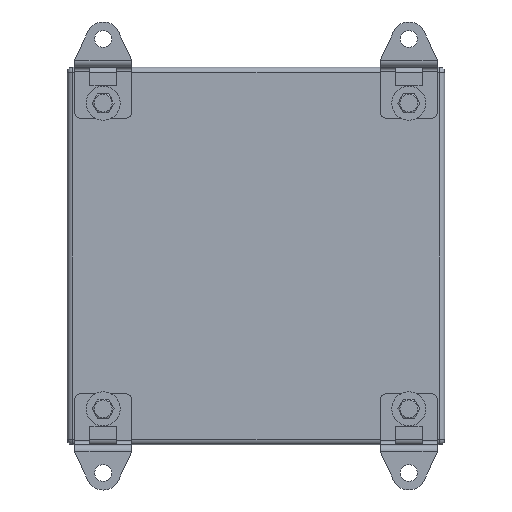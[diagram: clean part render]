
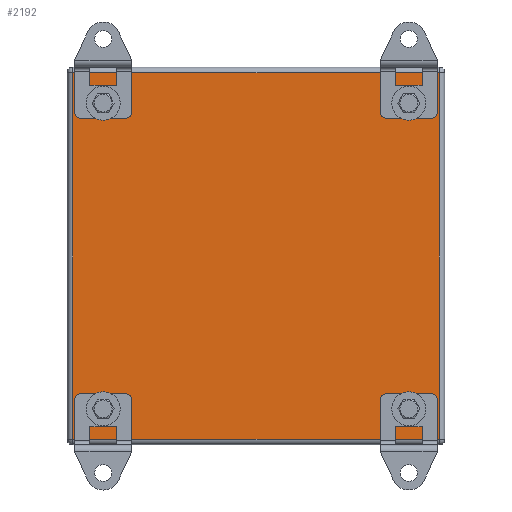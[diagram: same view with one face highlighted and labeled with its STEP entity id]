
A CAD part, left-side view. The second image highlights one B-rep face of the part: STEP entity #2192.
In plain terms, the highlighted planar face has unit normal (-1, 0, 0).
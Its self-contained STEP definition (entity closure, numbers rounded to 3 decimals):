
#2192=ADVANCED_FACE('',(#3158,#3160,#3162,#3164,#3166),#3168,.F.);
#3158=FACE_BOUND('',#3159,.T.);
#3159=EDGE_LOOP('',(#7437,#7438,#7439,#7440));
#3160=FACE_BOUND('',#3161,.T.);
#3161=EDGE_LOOP('',(#7441));
#3162=FACE_BOUND('',#3163,.T.);
#3163=EDGE_LOOP('',(#7442));
#3164=FACE_BOUND('',#3165,.T.);
#3165=EDGE_LOOP('',(#7443));
#3166=FACE_BOUND('',#3167,.T.);
#3167=EDGE_LOOP('',(#7444));
#3168=PLANE('',#3169);
#3169=AXIS2_PLACEMENT_3D('',#3170,#3171,#3172);
#3170=CARTESIAN_POINT('',(0.,0.,0.));
#3171=DIRECTION('',(1.,0.,0.));
#3172=DIRECTION('',(0.,1.,0.));
#7437=ORIENTED_EDGE('',*,*,#9196,.T.);
#7438=ORIENTED_EDGE('',*,*,#9197,.T.);
#7439=ORIENTED_EDGE('',*,*,#9198,.T.);
#7440=ORIENTED_EDGE('',*,*,#9199,.T.);
#7441=ORIENTED_EDGE('',*,*,#9127,.T.);
#7442=ORIENTED_EDGE('',*,*,#9128,.T.);
#7443=ORIENTED_EDGE('',*,*,#9129,.T.);
#7444=ORIENTED_EDGE('',*,*,#9130,.T.);
#9127=EDGE_CURVE('',#10106,#10106,#10107,.F.);
#9128=EDGE_CURVE('',#10108,#10108,#10109,.F.);
#9129=EDGE_CURVE('',#10110,#10110,#10111,.F.);
#9130=EDGE_CURVE('',#10112,#10112,#10113,.F.);
#9196=EDGE_CURVE('',#10220,#10221,#10222,.T.);
#9197=EDGE_CURVE('',#10221,#10223,#10224,.T.);
#9198=EDGE_CURVE('',#10223,#10225,#10226,.T.);
#9199=EDGE_CURVE('',#10225,#10220,#10227,.T.);
#10106=VERTEX_POINT('',#11770);
#10107=CIRCLE('',#11771,3.25);
#10108=VERTEX_POINT('',#11775);
#10109=CIRCLE('',#11776,3.25);
#10110=VERTEX_POINT('',#11780);
#10111=CIRCLE('',#11781,3.25);
#10112=VERTEX_POINT('',#11785);
#10113=CIRCLE('',#11786,3.25);
#10220=VERTEX_POINT('',#12031);
#10221=VERTEX_POINT('',#12032);
#10222=LINE('',#12033,#12034);
#10223=VERTEX_POINT('',#12036);
#10224=LINE('',#12037,#12038);
#10225=VERTEX_POINT('',#12040);
#10226=LINE('',#12041,#12042);
#10227=LINE('',#12044,#12045);
#11770=CARTESIAN_POINT('',(0.,77.75,81.));
#11771=AXIS2_PLACEMENT_3D('',#11772,#11773,#11774);
#11772=CARTESIAN_POINT('',(0.,81.,81.));
#11773=DIRECTION('',(-1.,0.,0.));
#11774=DIRECTION('',(0.,-1.,0.));
#11775=CARTESIAN_POINT('',(0.,-84.25,-81.));
#11776=AXIS2_PLACEMENT_3D('',#11777,#11778,#11779);
#11777=CARTESIAN_POINT('',(0.,-81.,-81.));
#11778=DIRECTION('',(-1.,0.,0.));
#11779=DIRECTION('',(0.,-1.,0.));
#11780=CARTESIAN_POINT('',(0.,77.75,-81.));
#11781=AXIS2_PLACEMENT_3D('',#11782,#11783,#11784);
#11782=CARTESIAN_POINT('',(0.,81.,-81.));
#11783=DIRECTION('',(-1.,0.,0.));
#11784=DIRECTION('',(0.,-1.,0.));
#11785=CARTESIAN_POINT('',(0.,-84.25,81.));
#11786=AXIS2_PLACEMENT_3D('',#11787,#11788,#11789);
#11787=CARTESIAN_POINT('',(0.,-81.,81.));
#11788=DIRECTION('',(-1.,0.,0.));
#11789=DIRECTION('',(0.,-1.,0.));
#12031=CARTESIAN_POINT('',(0.,97.2,97.2));
#12032=CARTESIAN_POINT('',(0.,97.2,-97.2));
#12033=CARTESIAN_POINT('',(0.,97.2,97.2));
#12034=VECTOR('',#12035,1.);
#12035=DIRECTION('',(0.,0.,-1.));
#12036=CARTESIAN_POINT('',(0.,-97.2,-97.2));
#12037=CARTESIAN_POINT('',(0.,97.2,-97.2));
#12038=VECTOR('',#12039,1.);
#12039=DIRECTION('',(0.,-1.,0.));
#12040=CARTESIAN_POINT('',(0.,-97.2,97.2));
#12041=CARTESIAN_POINT('',(0.,-97.2,-97.2));
#12042=VECTOR('',#12043,1.);
#12043=DIRECTION('',(0.,0.,1.));
#12044=CARTESIAN_POINT('',(0.,-97.2,97.2));
#12045=VECTOR('',#12046,1.);
#12046=DIRECTION('',(0.,1.,0.));
